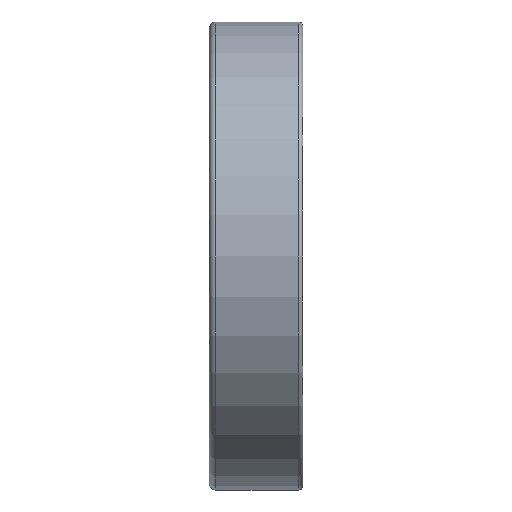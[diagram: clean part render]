
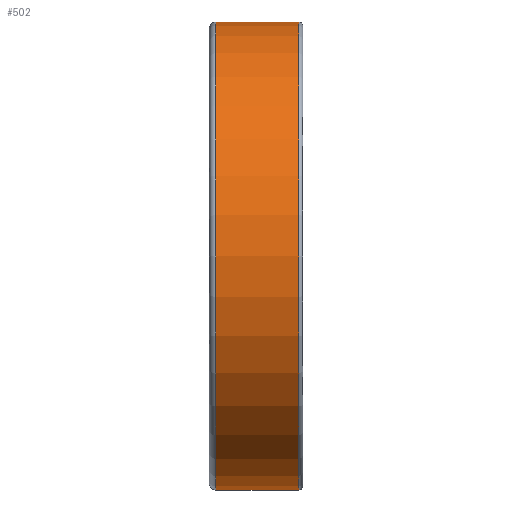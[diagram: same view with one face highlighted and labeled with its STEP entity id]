
A CAD part, front view. The second image highlights one B-rep face of the part: STEP entity #502.
In plain terms, the highlighted cylindrical face has radius 55 mm (diameter 110 mm), a full revolution.
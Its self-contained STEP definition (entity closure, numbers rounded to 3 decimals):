
#158=CYLINDRICAL_SURFACE('',#778,55.);
#246=EDGE_LOOP('',(#346));
#247=EDGE_LOOP('',(#347));
#346=ORIENTED_EDGE('',*,*,#404,.F.);
#347=ORIENTED_EDGE('',*,*,#402,.T.);
#402=EDGE_CURVE('',#711,#711,#422,.T.);
#404=EDGE_CURVE('',#713,#713,#424,.T.);
#422=CIRCLE('',#774,55.);
#424=CIRCLE('',#777,55.);
#502=ADVANCED_FACE('',(#625,#626),#158,.T.);
#625=FACE_BOUND('',#246,.T.);
#626=FACE_BOUND('',#247,.T.);
#711=VERTEX_POINT('',#1578);
#713=VERTEX_POINT('',#1583);
#774=AXIS2_PLACEMENT_3D('',#1577,#893,#894);
#777=AXIS2_PLACEMENT_3D('',#1582,#899,#900);
#778=AXIS2_PLACEMENT_3D('',#1584,#901,#902);
#893=DIRECTION('',(1.,0.,0.));
#894=DIRECTION('',(0.,0.,-1.));
#899=DIRECTION('',(1.,0.,0.));
#900=DIRECTION('',(0.,0.,-1.));
#901=DIRECTION('',(1.,0.,0.));
#902=DIRECTION('',(0.,0.,-1.));
#1577=CARTESIAN_POINT('',(-9.5,0.,0.));
#1578=CARTESIAN_POINT('',(-9.5,0.,-55.));
#1582=CARTESIAN_POINT('',(10.,0.,0.));
#1583=CARTESIAN_POINT('',(10.,0.,-55.));
#1584=CARTESIAN_POINT('',(-9.5,0.,0.));
